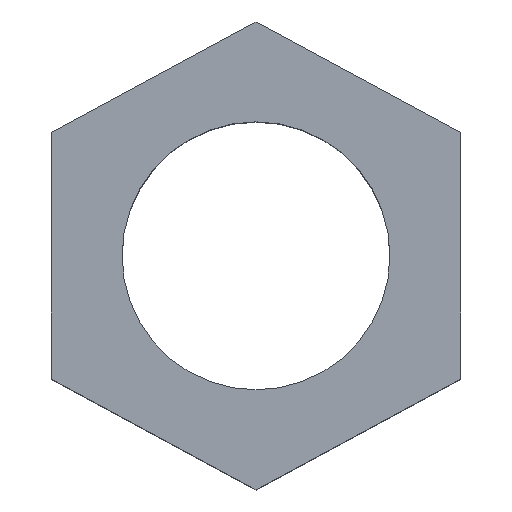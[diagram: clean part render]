
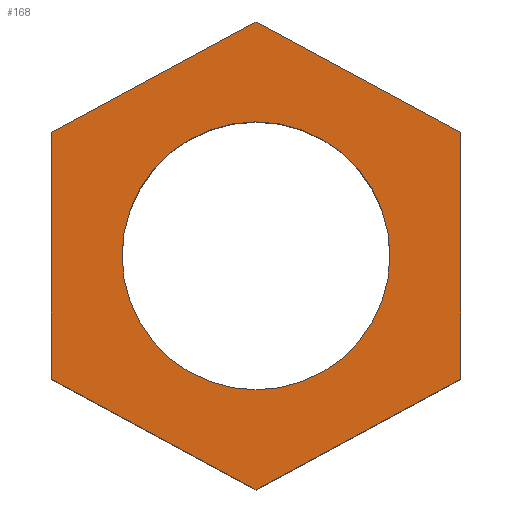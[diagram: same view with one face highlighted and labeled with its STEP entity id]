
A CAD part, top view. The second image highlights one B-rep face of the part: STEP entity #168.
In plain terms, the highlighted planar face has unit normal (0, 0, 1).
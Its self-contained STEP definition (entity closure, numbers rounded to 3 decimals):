
#17=LINE('',#237,#35);
#20=LINE('',#243,#38);
#23=LINE('',#249,#41);
#26=LINE('',#255,#44);
#29=LINE('',#261,#47);
#32=LINE('',#265,#50);
#35=VECTOR('',#194,10.);
#38=VECTOR('',#199,10.);
#41=VECTOR('',#204,10.);
#44=VECTOR('',#209,10.);
#47=VECTOR('',#214,10.);
#50=VECTOR('',#219,10.);
#58=PLANE('',#181);
#61=FACE_BOUND('',#82,.T.);
#70=FACE_OUTER_BOUND('',#81,.T.);
#81=EDGE_LOOP('',(#152,#153,#154,#155,#156,#157));
#82=EDGE_LOOP('',(#158));
#83=CIRCLE('',#172,4.125);
#85=VERTEX_POINT('',#226);
#89=VERTEX_POINT('',#234);
#90=VERTEX_POINT('',#236);
#92=VERTEX_POINT('',#242);
#94=VERTEX_POINT('',#248);
#96=VERTEX_POINT('',#254);
#98=VERTEX_POINT('',#260);
#99=EDGE_CURVE('',#85,#85,#83,.T.);
#103=EDGE_CURVE('',#90,#89,#17,.T.);
#106=EDGE_CURVE('',#92,#90,#20,.T.);
#109=EDGE_CURVE('',#94,#92,#23,.T.);
#112=EDGE_CURVE('',#96,#94,#26,.T.);
#115=EDGE_CURVE('',#98,#96,#29,.T.);
#118=EDGE_CURVE('',#89,#98,#32,.T.);
#152=ORIENTED_EDGE('',*,*,#118,.T.);
#153=ORIENTED_EDGE('',*,*,#115,.T.);
#154=ORIENTED_EDGE('',*,*,#112,.T.);
#155=ORIENTED_EDGE('',*,*,#109,.T.);
#156=ORIENTED_EDGE('',*,*,#106,.T.);
#157=ORIENTED_EDGE('',*,*,#103,.T.);
#158=ORIENTED_EDGE('',*,*,#99,.T.);
#168=ADVANCED_FACE('',(#70,#61),#58,.T.);
#172=AXIS2_PLACEMENT_3D('',#227,#186,#187);
#181=AXIS2_PLACEMENT_3D('',#267,#222,#223);
#186=DIRECTION('center_axis',(0.,0.,-1.));
#187=DIRECTION('ref_axis',(-1.,0.,0.));
#194=DIRECTION('',(-0.88,-0.475,0.));
#199=DIRECTION('',(-0.88,0.475,0.));
#204=DIRECTION('',(0.,1.,0.));
#209=DIRECTION('',(0.88,0.475,0.));
#214=DIRECTION('',(0.88,-0.475,0.));
#219=DIRECTION('',(0.,-1.,0.));
#222=DIRECTION('center_axis',(0.,0.,1.));
#223=DIRECTION('ref_axis',(1.,0.,0.));
#226=CARTESIAN_POINT('',(4.125,0.,6.5));
#227=CARTESIAN_POINT('Origin',(0.,0.,6.5));
#234=CARTESIAN_POINT('',(-6.3,3.8,6.5));
#236=CARTESIAN_POINT('',(0.,7.2,6.5));
#237=CARTESIAN_POINT('',(-6.3,3.8,6.5));
#242=CARTESIAN_POINT('',(6.3,3.8,6.5));
#243=CARTESIAN_POINT('',(0.,7.2,6.5));
#248=CARTESIAN_POINT('',(6.3,-3.8,6.5));
#249=CARTESIAN_POINT('',(6.3,0.,6.5));
#254=CARTESIAN_POINT('',(0.,-7.2,6.5));
#255=CARTESIAN_POINT('',(6.3,-3.8,6.5));
#260=CARTESIAN_POINT('',(-6.3,-3.8,6.5));
#261=CARTESIAN_POINT('',(0.,-7.2,6.5));
#265=CARTESIAN_POINT('',(-6.3,0.,6.5));
#267=CARTESIAN_POINT('Origin',(0.,0.,6.5));
